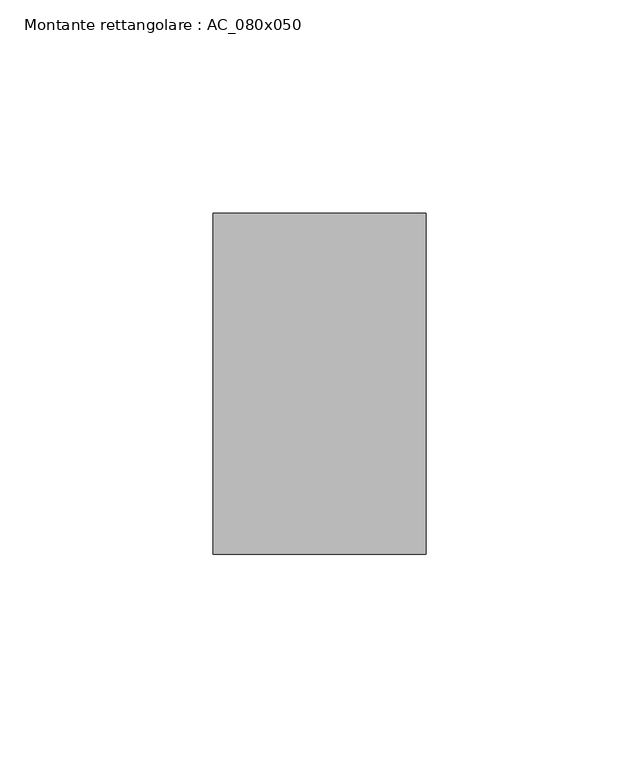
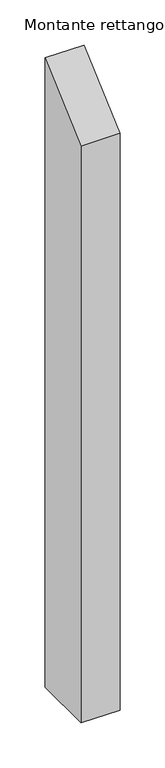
"""IFC4 building model written with IfcOpenShell, lengths in millimetres: member geometry, Montante rettangolare : AC_080x050."""

from ifc_helpers import new_model, si_unit, frame, origin, place, context, project, spatial, polyline, outline, extrude, source, transform, mapped, element, save


def montante_rettangolare_ac_080x050_b03c8246(model_context):
    return source(origin(), model_context, "Body", "SweptSolid", [
        extrude(outline(polyline([(-40.0, -35.3890106), (40.0, 35.3890106), (40.0, -816.7019815), (-40.0, -816.7019815), (-40.0, -35.3890106)])), frame((-50.0, 0.0, 0.0), z_axis=(1.0, 0.0, 0.0), x_axis=(0.0, 1.0, 0.0)), (0.0, 0.0, 1.0), 50.0),
    ])


if __name__ == "__main__":
    model = new_model("IFC4")
    model_context = context("Model", 3, world=origin())
    ifc_project = project(units=[si_unit("LENGTHUNIT", "METRE", prefix="MILLI")], contexts=[model_context])
    site = spatial("IfcSite", under=ifc_project)
    building = spatial("IfcBuilding", under=site)
    placement = place(None, origin())
    montante_rettangolare_ac_080x050_shape = montante_rettangolare_ac_080x050_b03c8246(model_context)
    element("IfcMember", 1, ObjectType="Montante rettangolare : AC_080x050", at=placement, inside=building, context=model_context, shape_type="MappedRepresentation", body=[
        mapped(montante_rettangolare_ac_080x050_shape, transform((0.0, 0.0, 0.0), x_axis=(1.0, 0.0, 0.0), y_axis=(0.0, 1.0, 0.0), z_axis=(0.0, 0.0, 1.0))),
    ])
    save(model, "model.ifc")
